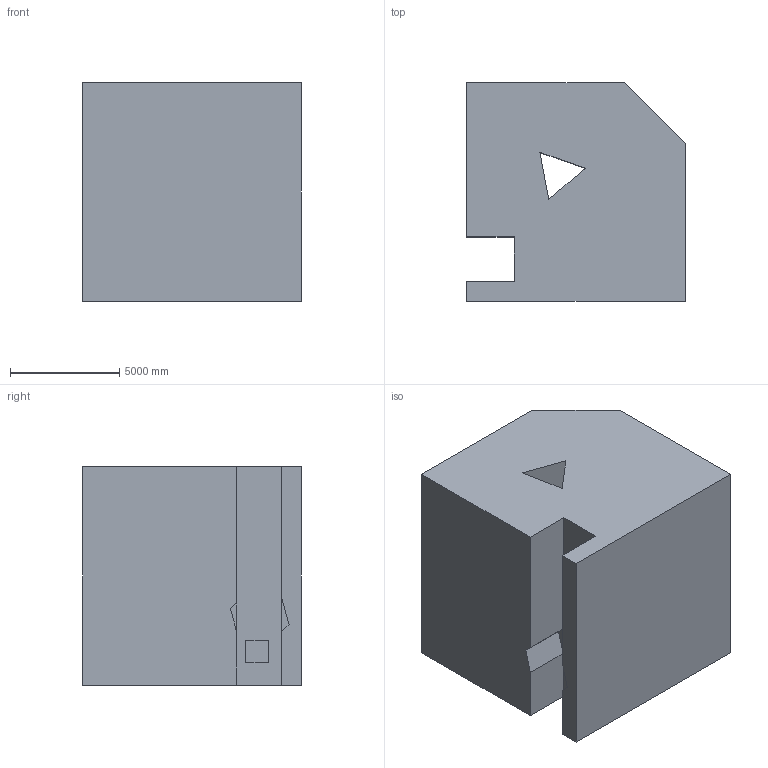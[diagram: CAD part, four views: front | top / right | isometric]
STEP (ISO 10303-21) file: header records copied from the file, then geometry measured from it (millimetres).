
FILE_DESCRIPTION (( 'STEP AP203' ), '1' );
FILE_NAME ('1421.STEP', '2022-08-18T14:22:34', ( 'user' ), ( '' ), 'SwSTEP 2.0', 'SolidWorks 2021', '' );
FILE_SCHEMA (( 'CONFIG_CONTROL_DESIGN' ));
Length unit declared in the file: centimetre
Products named in the file (1): 1421
Bounding box: 10000 x 10000 x 10000 mm (x, y, z)
Volume: 891077045890.1 mm3; surface area: 685481823.4 mm2
Topology: 1 solids, 1 shells, 25 faces, 66 edges, 44 vertices
Faces by surface type: plane 25
Entity records: 841 total; most frequent: CARTESIAN_POINT 136, ORIENTED_EDGE 132, DIRECTION 118, LINE 66, EDGE_CURVE 66, VECTOR 66, VERTEX_POINT 44, EDGE_LOOP 28
